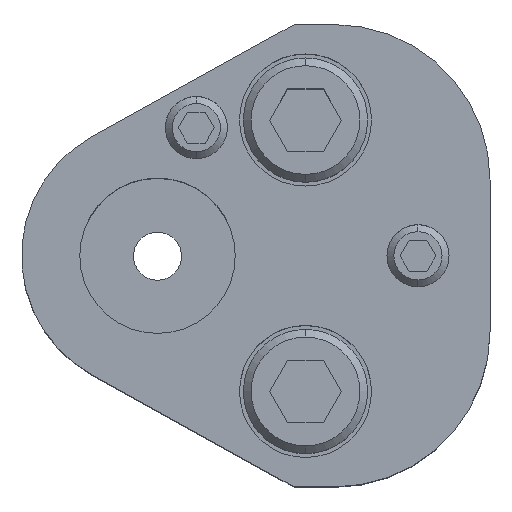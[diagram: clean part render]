
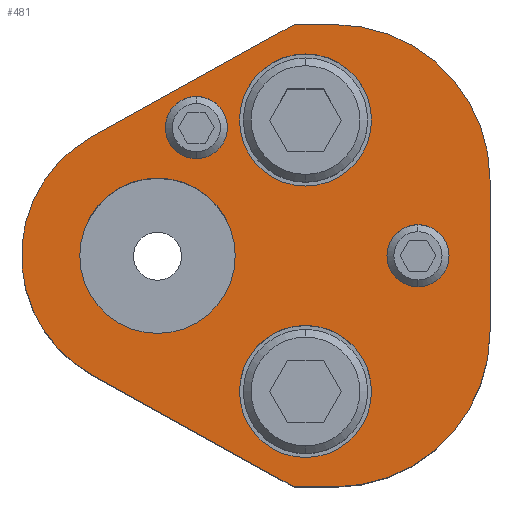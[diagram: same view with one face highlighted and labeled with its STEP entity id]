
A CAD part, top view. The second image highlights one B-rep face of the part: STEP entity #481.
In plain terms, the highlighted planar face has unit normal (0, 0, 1).
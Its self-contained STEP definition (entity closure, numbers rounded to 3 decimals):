
#213=FACE_BOUND('',#843,.T.);
#214=FACE_BOUND('',#844,.T.);
#215=FACE_BOUND('',#845,.T.);
#216=FACE_BOUND('',#846,.T.);
#217=FACE_BOUND('',#847,.T.);
#218=FACE_BOUND('',#848,.T.);
#303=CIRCLE('',#2712,20.);
#305=CIRCLE('',#2716,20.);
#308=CIRCLE('',#2722,17.5);
#309=CIRCLE('',#2724,4.);
#311=CIRCLE('',#2727,4.);
#313=CIRCLE('',#2730,4.);
#315=CIRCLE('',#2733,4.);
#325=CIRCLE('',#2748,8.5);
#326=CIRCLE('',#2749,8.5);
#327=CIRCLE('',#2750,8.5);
#328=CIRCLE('',#2751,8.5);
#329=CIRCLE('',#2752,10.);
#330=CIRCLE('',#2753,10.);
#481=ADVANCED_FACE('',(#213,#214,#215,#216,#217,#218),#595,.T.);
#595=PLANE('',#2754);
#843=EDGE_LOOP('',(#1257,#1258,#1259,#1260,#1261,#1262,#1263,#1264));
#844=EDGE_LOOP('',(#1265,#1266));
#845=EDGE_LOOP('',(#1267,#1268));
#846=EDGE_LOOP('',(#1269,#1270));
#847=EDGE_LOOP('',(#1271,#1272));
#848=EDGE_LOOP('',(#1273,#1274));
#1257=ORIENTED_EDGE('',*,*,#1996,.T.);
#1258=ORIENTED_EDGE('',*,*,#2000,.T.);
#1259=ORIENTED_EDGE('',*,*,#2003,.T.);
#1260=ORIENTED_EDGE('',*,*,#2006,.T.);
#1261=ORIENTED_EDGE('',*,*,#2009,.T.);
#1262=ORIENTED_EDGE('',*,*,#2012,.T.);
#1263=ORIENTED_EDGE('',*,*,#2015,.T.);
#1264=ORIENTED_EDGE('',*,*,#2018,.T.);
#1265=ORIENTED_EDGE('',*,*,#2043,.F.);
#1266=ORIENTED_EDGE('',*,*,#2044,.F.);
#1267=ORIENTED_EDGE('',*,*,#2045,.F.);
#1268=ORIENTED_EDGE('',*,*,#2046,.F.);
#1269=ORIENTED_EDGE('',*,*,#2029,.F.);
#1270=ORIENTED_EDGE('',*,*,#2025,.F.);
#1271=ORIENTED_EDGE('',*,*,#2023,.F.);
#1272=ORIENTED_EDGE('',*,*,#2019,.F.);
#1273=ORIENTED_EDGE('',*,*,#2047,.T.);
#1274=ORIENTED_EDGE('',*,*,#2048,.T.);
#1728=VERTEX_POINT('',#4024);
#1729=VERTEX_POINT('',#4026);
#1732=VERTEX_POINT('',#4033);
#1734=VERTEX_POINT('',#4039);
#1736=VERTEX_POINT('',#4045);
#1738=VERTEX_POINT('',#4051);
#1740=VERTEX_POINT('',#4057);
#1742=VERTEX_POINT('',#4063);
#1743=VERTEX_POINT('',#4071);
#1744=VERTEX_POINT('',#4072);
#1747=VERTEX_POINT('',#4083);
#1748=VERTEX_POINT('',#4084);
#1759=VERTEX_POINT('',#4119);
#1760=VERTEX_POINT('',#4120);
#1761=VERTEX_POINT('',#4123);
#1762=VERTEX_POINT('',#4124);
#1763=VERTEX_POINT('',#4127);
#1764=VERTEX_POINT('',#4128);
#1996=EDGE_CURVE('',#1729,#1728,#2294,.T.);
#2000=EDGE_CURVE('',#1728,#1732,#2298,.T.);
#2003=EDGE_CURVE('',#1732,#1734,#303,.T.);
#2006=EDGE_CURVE('',#1734,#1736,#2302,.T.);
#2009=EDGE_CURVE('',#1736,#1738,#305,.T.);
#2012=EDGE_CURVE('',#1738,#1740,#2306,.T.);
#2015=EDGE_CURVE('',#1740,#1742,#2309,.T.);
#2018=EDGE_CURVE('',#1742,#1729,#308,.T.);
#2019=EDGE_CURVE('',#1743,#1744,#309,.T.);
#2023=EDGE_CURVE('',#1744,#1743,#311,.T.);
#2025=EDGE_CURVE('',#1747,#1748,#313,.T.);
#2029=EDGE_CURVE('',#1748,#1747,#315,.T.);
#2043=EDGE_CURVE('',#1759,#1760,#325,.T.);
#2044=EDGE_CURVE('',#1760,#1759,#326,.T.);
#2045=EDGE_CURVE('',#1761,#1762,#327,.T.);
#2046=EDGE_CURVE('',#1762,#1761,#328,.T.);
#2047=EDGE_CURVE('',#1763,#1764,#329,.T.);
#2048=EDGE_CURVE('',#1764,#1763,#330,.T.);
#2294=LINE('',#4025,#2486);
#2298=LINE('',#4034,#2490);
#2302=LINE('',#4046,#2494);
#2306=LINE('',#4058,#2498);
#2309=LINE('',#4064,#2501);
#2486=VECTOR('',#3186,1.);
#2490=VECTOR('',#3192,1.);
#2494=VECTOR('',#3204,1.);
#2498=VECTOR('',#3216,1.);
#2501=VECTOR('',#3221,1.);
#2712=AXIS2_PLACEMENT_3D('',#4040,#3197,#3198);
#2716=AXIS2_PLACEMENT_3D('',#4052,#3209,#3210);
#2722=AXIS2_PLACEMENT_3D('',#4068,#3227,#3228);
#2724=AXIS2_PLACEMENT_3D('',#4070,#3231,#3232);
#2727=AXIS2_PLACEMENT_3D('',#4079,#3239,#3240);
#2730=AXIS2_PLACEMENT_3D('',#4082,#3245,#3246);
#2733=AXIS2_PLACEMENT_3D('',#4091,#3253,#3254);
#2748=AXIS2_PLACEMENT_3D('',#4118,#3287,#3288);
#2749=AXIS2_PLACEMENT_3D('',#4121,#3289,#3290);
#2750=AXIS2_PLACEMENT_3D('',#4122,#3291,#3292);
#2751=AXIS2_PLACEMENT_3D('',#4125,#3293,#3294);
#2752=AXIS2_PLACEMENT_3D('',#4126,#3295,#3296);
#2753=AXIS2_PLACEMENT_3D('',#4129,#3297,#3298);
#2754=AXIS2_PLACEMENT_3D('',#4130,#3299,#3300);
#3186=DIRECTION('',(0.875,-0.485,0.));
#3192=DIRECTION('',(1.,0.,0.));
#3197=DIRECTION('',(0.,0.,1.));
#3198=DIRECTION('',(-0.707,0.707,0.));
#3204=DIRECTION('',(0.,1.,0.));
#3209=DIRECTION('',(0.,0.,1.));
#3210=DIRECTION('',(-0.707,-0.707,0.));
#3216=DIRECTION('',(-1.,0.,0.));
#3221=DIRECTION('',(-0.875,-0.485,0.));
#3227=DIRECTION('',(0.,0.,1.));
#3228=DIRECTION('',(1.,0.,0.));
#3231=DIRECTION('',(0.,0.,1.));
#3232=DIRECTION('',(-1.,0.,0.));
#3239=DIRECTION('',(0.,0.,1.));
#3240=DIRECTION('',(1.,0.,0.));
#3245=DIRECTION('',(0.,0.,1.));
#3246=DIRECTION('',(-1.,0.,0.));
#3253=DIRECTION('',(0.,0.,1.));
#3254=DIRECTION('',(1.,0.,0.));
#3287=DIRECTION('',(0.,0.,1.));
#3288=DIRECTION('',(1.,0.,0.));
#3289=DIRECTION('',(0.,0.,1.));
#3290=DIRECTION('',(-1.,0.,0.));
#3291=DIRECTION('',(0.,0.,1.));
#3292=DIRECTION('',(1.,0.,0.));
#3293=DIRECTION('',(0.,0.,1.));
#3294=DIRECTION('',(-1.,0.,0.));
#3295=DIRECTION('',(0.,0.,-1.));
#3296=DIRECTION('',(-1.,0.,0.));
#3297=DIRECTION('',(0.,0.,-1.));
#3298=DIRECTION('',(1.,0.,0.));
#3299=DIRECTION('',(0.,0.,1.));
#3300=DIRECTION('',(-0.875,0.485,0.));
#4024=CARTESIAN_POINT('',(17.574,-29.75,37.));
#4025=CARTESIAN_POINT('',(17.574,-29.75,37.));
#4026=CARTESIAN_POINT('',(-8.484,-15.306,37.));
#4033=CARTESIAN_POINT('',(22.8,-29.75,37.));
#4034=CARTESIAN_POINT('',(17.574,-29.75,37.));
#4039=CARTESIAN_POINT('',(42.8,-9.75,37.));
#4040=CARTESIAN_POINT('',(22.8,-9.75,37.));
#4045=CARTESIAN_POINT('',(42.8,9.75,37.));
#4046=CARTESIAN_POINT('',(42.8,9.75,37.));
#4051=CARTESIAN_POINT('',(22.8,29.75,37.));
#4052=CARTESIAN_POINT('',(22.8,9.75,37.));
#4057=CARTESIAN_POINT('',(17.574,29.75,37.));
#4058=CARTESIAN_POINT('',(17.574,29.75,37.));
#4063=CARTESIAN_POINT('',(-8.484,15.306,37.));
#4064=CARTESIAN_POINT('',(17.574,29.75,37.));
#4068=CARTESIAN_POINT('',(0.,0.,37.));
#4070=CARTESIAN_POINT('',(5.,16.5,37.));
#4071=CARTESIAN_POINT('',(5.,12.5,37.));
#4072=CARTESIAN_POINT('',(5.,20.5,37.));
#4079=CARTESIAN_POINT('',(5.,16.5,37.));
#4082=CARTESIAN_POINT('',(33.53,0.,37.));
#4083=CARTESIAN_POINT('',(33.53,-4.,37.));
#4084=CARTESIAN_POINT('',(33.53,4.,37.));
#4091=CARTESIAN_POINT('',(33.53,0.,37.));
#4118=CARTESIAN_POINT('',(19.05,17.47,37.));
#4119=CARTESIAN_POINT('',(19.05,25.97,37.));
#4120=CARTESIAN_POINT('',(19.05,8.97,37.));
#4121=CARTESIAN_POINT('',(19.05,17.47,37.));
#4122=CARTESIAN_POINT('',(19.05,-17.47,37.));
#4123=CARTESIAN_POINT('',(19.05,-8.97,37.));
#4124=CARTESIAN_POINT('',(19.05,-25.97,37.));
#4125=CARTESIAN_POINT('',(19.05,-17.47,37.));
#4126=CARTESIAN_POINT('',(0.,0.,37.));
#4127=CARTESIAN_POINT('',(0.,10.,37.));
#4128=CARTESIAN_POINT('',(0.,-10.,37.));
#4129=CARTESIAN_POINT('',(0.,0.,37.));
#4130=CARTESIAN_POINT('',(-8.484,-15.306,37.));
